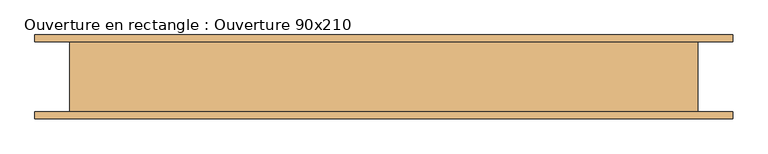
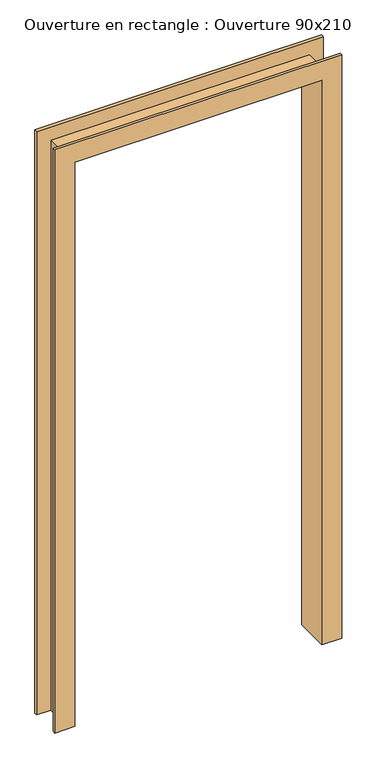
"""IFC4 building model written with IfcOpenShell, lengths in millimetres: door geometry, Ouverture en rectangle : Ouverture 90x210."""

from ifc_helpers import new_model, si_unit, origin, place, context, project, spatial, faceted_brep, source, transform, mapped, element, save


def ouverture_en_rectangle_ouverture_90x210_ffd93667(model_context):
    return source(origin(), model_context, "Body", "Brep", [
        faceted_brep([(-450.0, 50.0, 0.0), (-500.0, 50.0, 0.0), (-500.0, 60.0, 0.0), (-430.0, 60.0, 0.0), (-430.0, -60.0, 0.0), (-500.0, -60.0, 0.0), (-500.0, -50.0, 0.0), (-450.0, -50.0, 0.0), (-450.0, -50.0, 2100.0), (-450.0, 50.0, 2100.0), (-500.0, -50.0, 2150.0), (500.0, -50.0, 2150.0), (500.0, -50.0, 0.0), (450.0, -50.0, 0.0), (450.0, -50.0, 2100.0), (-500.0, -60.0, 2150.0), (-430.0, -60.0, 2080.0), (430.0, -60.0, 2080.0), (430.0, -60.0, 0.0), (500.0, -60.0, 0.0), (500.0, -60.0, 2150.0), (-430.0, 60.0, 2080.0), (-500.0, 60.0, 2150.0), (500.0, 60.0, 2150.0), (500.0, 60.0, 0.0), (430.0, 60.0, 0.0), (430.0, 60.0, 2080.0), (-500.0, 50.0, 2150.0), (450.0, 50.0, 2100.0), (450.0, 50.0, 0.0), (500.0, 50.0, 0.0), (500.0, 50.0, 2150.0)], [[[0, 1, 2, 3, 4, 5, 6, 7]], [[7, 8, 9, 0]], [[6, 10, 11, 12, 13, 14, 8, 7]], [[5, 15, 10, 6]], [[4, 16, 17, 18, 19, 20, 15, 5]], [[3, 21, 16, 4]], [[2, 22, 23, 24, 25, 26, 21, 3]], [[1, 27, 22, 2]], [[0, 9, 28, 29, 30, 31, 27, 1]], [[14, 13, 29, 28]], [[29, 13, 12, 19, 18, 25, 24, 30]], [[20, 19, 12, 11]], [[26, 25, 18, 17]], [[31, 30, 24, 23]], [[8, 14, 28, 9]], [[15, 20, 11, 10]], [[21, 26, 17, 16]], [[27, 31, 23, 22]]]),
    ])


if __name__ == "__main__":
    model = new_model("IFC4")
    model_context = context("Model", 3, world=origin())
    ifc_project = project(units=[si_unit("LENGTHUNIT", "METRE", prefix="MILLI")], contexts=[model_context])
    site = spatial("IfcSite", under=ifc_project)
    building = spatial("IfcBuilding", under=site)
    placement = place(None, origin())
    ouverture_en_rectangle_ouverture_90x210_shape = ouverture_en_rectangle_ouverture_90x210_ffd93667(model_context)
    element("IfcDoor", 1, ObjectType="Ouverture en rectangle : Ouverture 90x210", at=placement, inside=building, context=model_context, shape_type="MappedRepresentation", body=[
        mapped(ouverture_en_rectangle_ouverture_90x210_shape, transform((0.0, 0.0, 0.0), x_axis=(1.0, 0.0, 0.0), y_axis=(0.0, 1.0, 0.0), z_axis=(0.0, 0.0, 1.0))),
    ])
    save(model, "model.ifc")
